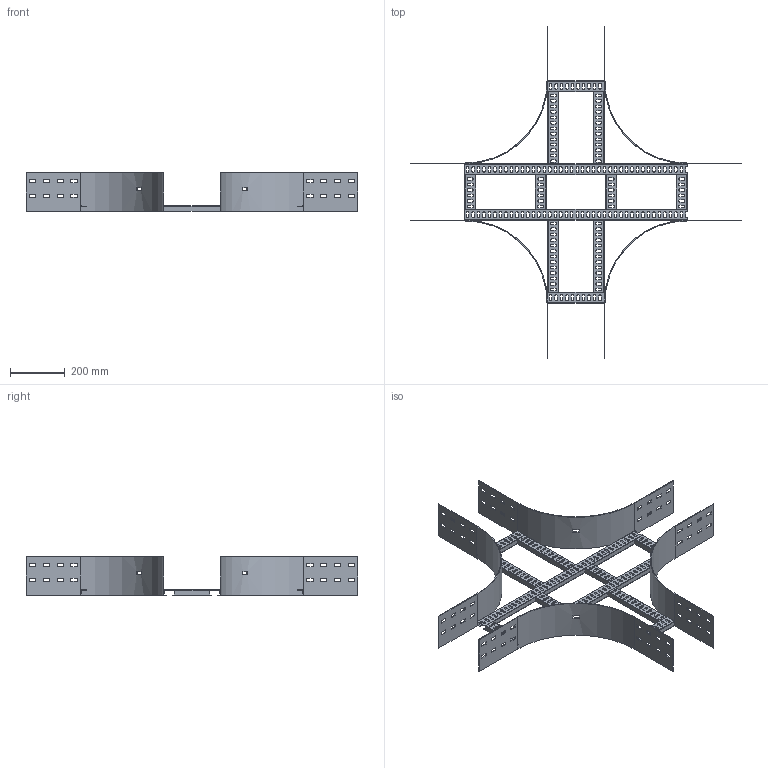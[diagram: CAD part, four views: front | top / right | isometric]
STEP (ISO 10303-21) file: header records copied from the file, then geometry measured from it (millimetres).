
FILE_DESCRIPTION(/* description */ ('','CAx-IF Rec.Pracs.---Representation and Presentation of Product Manufacturing Information (PMI)---4.0---2014-10-13'),/* implementation_level */ '2;1');
FILE_NAME(/* name */ 'Eurostrut_ECO150-200-300_Crossover for Cable Ladder ECL.step',/* time_stamp */ '2026-09-03T13:34:37+02:00',/* author */ (''),/* organization */ (''),/* preprocessor_version */ 'ST-DEVELOPER v20.1',/* originating_system */ 'Autodesk Revit 2027 27.2.0.39',/* authorisation */ '');
FILE_SCHEMA (('AP242_MANAGED_MODEL_BASED_3D_ENGINEERING_MIM_LF { 1 0 10303 442 2 1 4 }'));
Length unit declared in the file: millimetre
Products named in the file (10): TopLevelAssembly; Sweep; Sweep_1; Sweep_2; Sweep_3; Eurostrut_Cable Ladder_Rung_With slots; Eurostrut_Cable Ladder_Rung_With slots_1; Eurostrut_Cable Ladder_Rung Array Straight_Slotted; Eurostrut_Cable Ladder_Rung Array Straight_Slotted_1; Eurostrut_Cable Ladder_Accessory End_54-94-142
Assembly tree (19 placements, depth 2):
  TopLevelAssembly
    Sweep
    Sweep_1
    Eurostrut_Cable Ladder_Rung_With slots  x2
    Eurostrut_Cable Ladder_Rung_With slots_1  x2
    Sweep_2
    Sweep_3
    Eurostrut_Cable Ladder_Rung Array Straight_Slotted
    Eurostrut_Cable Ladder_Rung Array Straight_Slotted_1  x2
    Eurostrut_Cable Ladder_Accessory End_54-94-142  x8
Bounding box: 1211 x 1211 x 142 mm (x, y, z)
Volume: 1878888.6 mm3; surface area: 1618712.4 mm2
Topology: 24 solids, 24 shells, 1272 faces, 3672 edges, 2448 vertices
Faces by surface type: plane 860, bspline 356, cylinder 56
Entity records: 26890 total; most frequent: CARTESIAN_POINT 9853, ORIENTED_EDGE 3600, DIRECTION 3206, EDGE_CURVE 1800, LINE 1300, VECTOR 1300, VERTEX_POINT 1200, AXIS2_PLACEMENT_3D 953
